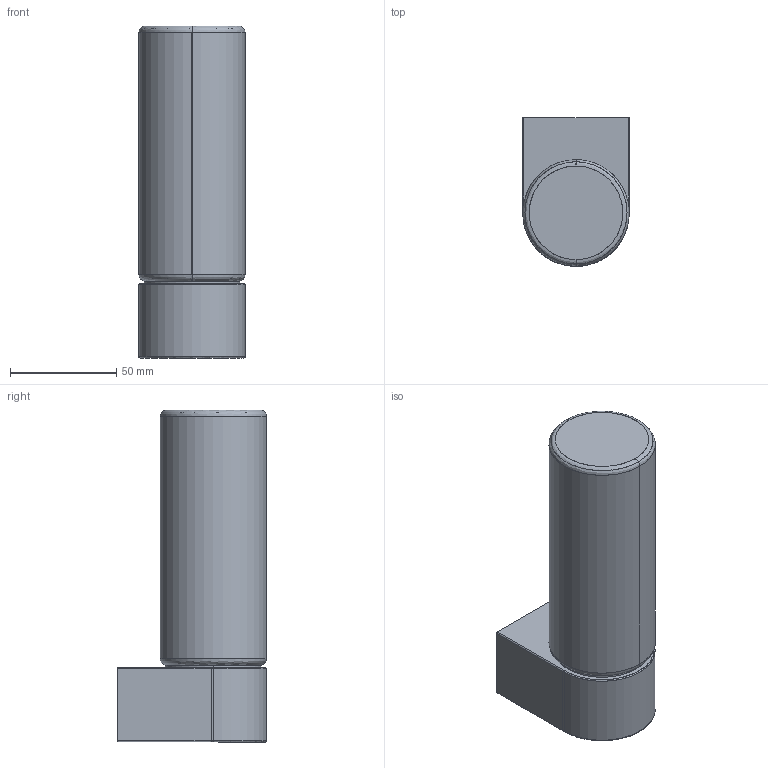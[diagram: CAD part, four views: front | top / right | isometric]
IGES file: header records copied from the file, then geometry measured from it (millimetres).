
Start section: SolidWorks IGES file using analytic representation for surfaces
Global section: file name: Y:\PRODUKT\Modele_3D_WWW\NATALIE-10724-10723\NATALIE-10724-10723.IGS; native system: SolidWorks 2023; preprocessor: SolidWorks 2023; author: anna.bielnik; date: 240412.094825; units: millimetre
Bounding box: 50.04 x 70.04 x 156.17 mm (x, y, z)
Surface area: 67553.1 mm2 (no closed solid volume)
Topology: 0 solids, 0 shells, 53 faces, 1018 edges, 1018 vertices
Faces by surface type: bspline 34, revolution 19
